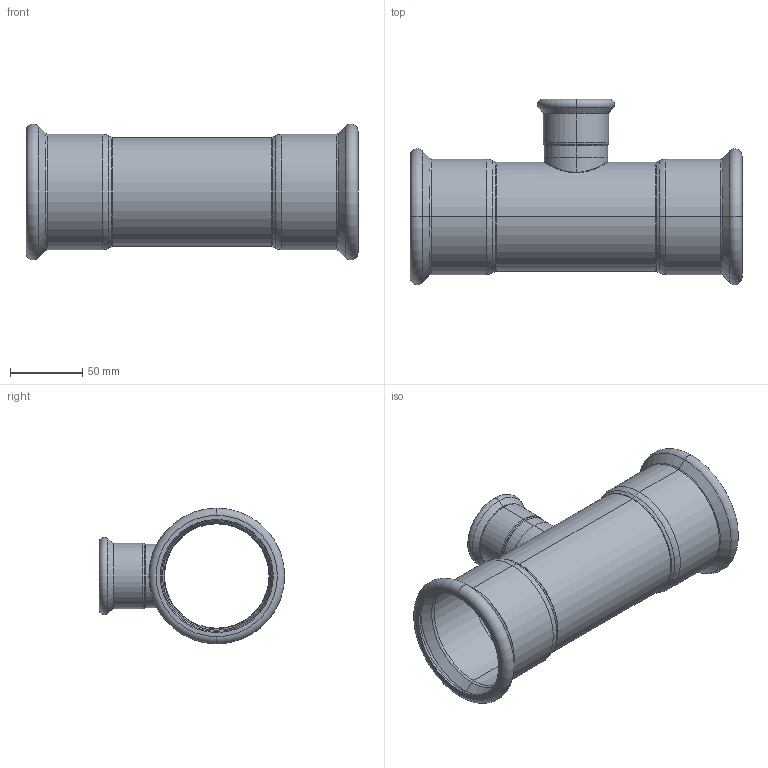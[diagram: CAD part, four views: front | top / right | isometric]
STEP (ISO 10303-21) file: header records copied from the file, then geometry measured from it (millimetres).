
FILE_DESCRIPTION (( 'STEP AP203' ), '1' );
FILE_NAME ('GDA5215.STEP', '2019-01-12T06:15:50', ( '' ), ( '' ), 'SwSTEP 2.0', 'SolidWorks 2015', '' );
FILE_SCHEMA (( 'CONFIG_CONTROL_DESIGN' ));
Length unit declared in the file: millimetre
Products named in the file (3): T-ｉ-01-42; T(R)-¢ñ-76.1¡Á42''; GDA5215
Assembly tree (2 placements, depth 2):
  GDA5215
    T(R)-¢ñ-76.1¡Á42''
    T-ｉ-01-42
Bounding box: 229 x 127.84 x 93.68 mm (x, y, z)
Volume: 98125 mm3; surface area: 131588.4 mm2
Topology: 2 solids, 2 shells, 114 faces, 234 edges, 128 vertices
Faces by surface type: torus 48, cylinder 30, cone 24, plane 8, bspline 4
Entity records: 4497 total; most frequent: CARTESIAN_POINT 1707, DIRECTION 620, ORIENTED_EDGE 468, AXIS2_PLACEMENT_3D 283, EDGE_CURVE 234, CIRCLE 168, VERTEX_POINT 128, EDGE_LOOP 124
